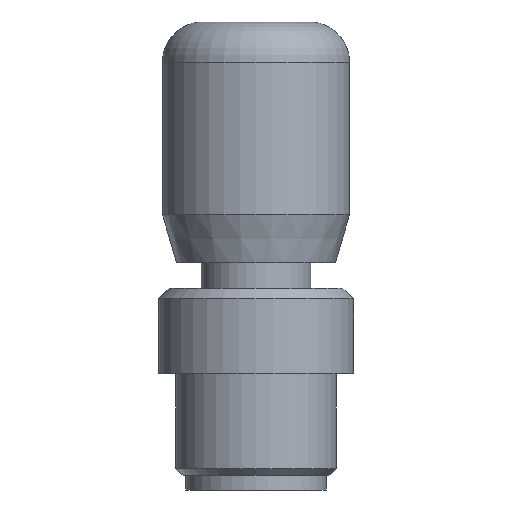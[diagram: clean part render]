
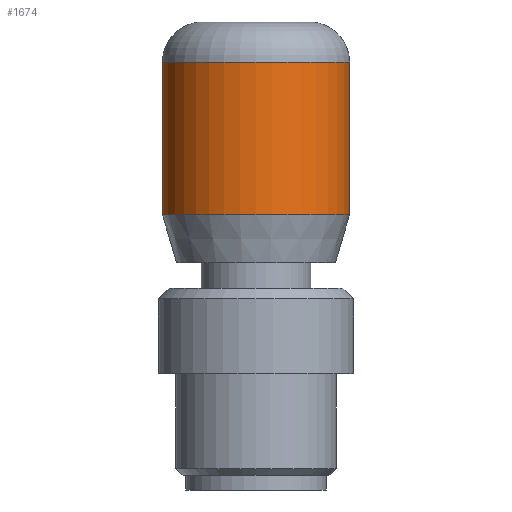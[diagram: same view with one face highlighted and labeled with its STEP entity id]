
A CAD part, front view. The second image highlights one B-rep face of the part: STEP entity #1674.
In plain terms, the highlighted cylindrical face has radius 7 mm (diameter 14 mm), a partial arc.
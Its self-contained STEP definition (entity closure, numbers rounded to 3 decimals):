
#64=CARTESIAN_POINT('',(0.,0.,-3.));
#65=DIRECTION('',(0.,0.,-1.));
#66=DIRECTION('',(1.,0.,0.));
#67=AXIS2_PLACEMENT_3D('',#64,#65,#66);
#72=DIRECTION('',(0.,0.,-1.));
#73=VECTOR('',#72,11.416);
#74=CARTESIAN_POINT('',(7.,0.,-3.));
#75=LINE('',#74,#73);
#79=DIRECTION('',(0.,0.,-1.));
#80=VECTOR('',#79,11.416);
#81=CARTESIAN_POINT('',(-7.,0.,-3.));
#82=LINE('',#81,#80);
#793=CARTESIAN_POINT('',(0.,0.,-14.416));
#794=DIRECTION('',(0.,0.,-1.));
#795=DIRECTION('',(1.,0.,0.));
#796=AXIS2_PLACEMENT_3D('',#793,#794,#795);
#1409=CARTESIAN_POINT('',(7.,0.,-14.416));
#1411=VERTEX_POINT('',#1409);
#1427=CARTESIAN_POINT('',(-7.,0.,-14.416));
#1429=VERTEX_POINT('',#1427);
#1494=CARTESIAN_POINT('',(7.,0.,-3.));
#1496=VERTEX_POINT('',#1494);
#1497=CARTESIAN_POINT('',(-7.,0.,-3.));
#1498=VERTEX_POINT('',#1497);
#1660=CARTESIAN_POINT('',(0.,0.,-36.75));
#1661=DIRECTION('',(0.,0.,1.));
#1662=DIRECTION('',(-1.,0.,0.));
#1663=AXIS2_PLACEMENT_3D('',#1660,#1661,#1662);
#1664=CYLINDRICAL_SURFACE('',#1663,7.);
#1665=ORIENTED_EDGE('',*,*,#1652,.F.);
#1667=ORIENTED_EDGE('',*,*,#1666,.T.);
#1669=ORIENTED_EDGE('',*,*,#1668,.T.);
#1671=ORIENTED_EDGE('',*,*,#1670,.F.);
#1672=EDGE_LOOP('',(#1665,#1667,#1669,#1671));
#1673=FACE_OUTER_BOUND('',#1672,.F.);
#1674=ADVANCED_FACE('',(#1673),#1664,.T.);
#68=CIRCLE('',#67,7.);
#797=CIRCLE('',#796,7.);
#1652=EDGE_CURVE('',#1496,#1498,#68,.T.);
#1666=EDGE_CURVE('',#1496,#1411,#75,.T.);
#1668=EDGE_CURVE('',#1411,#1429,#797,.T.);
#1670=EDGE_CURVE('',#1498,#1429,#82,.T.);
